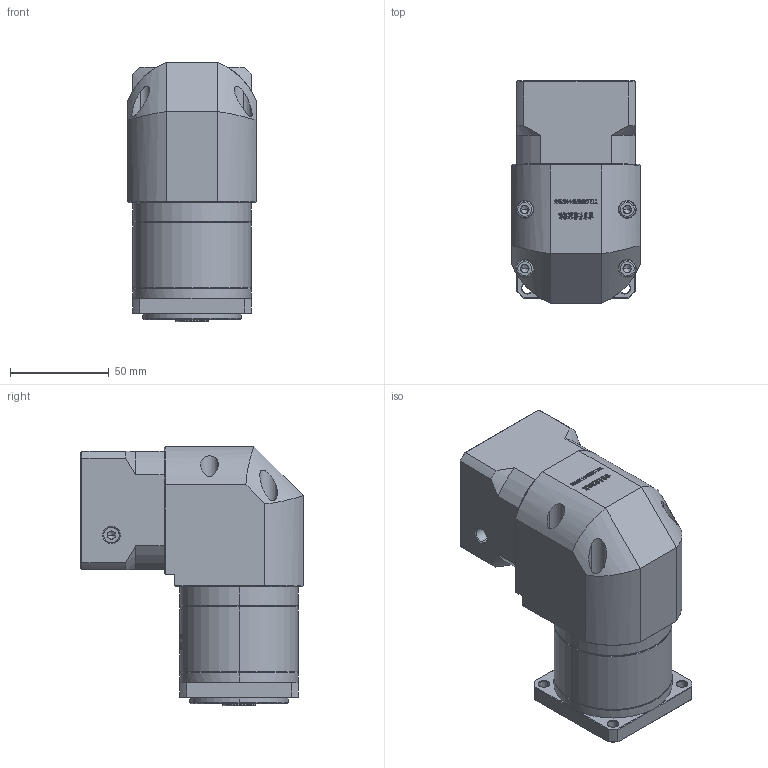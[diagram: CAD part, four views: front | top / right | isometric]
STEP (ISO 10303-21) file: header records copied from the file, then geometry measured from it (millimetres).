
FILE_DESCRIPTION (( 'STEP AP214' ), '1' );
FILE_NAME ('ZFR60-K10-L1-6.35-38.1-47.14x47.14-M4.STEP', '2022-04-20T08:06:11', ( '' ), ( 'Microsoft' ), 'SwSTEP 2.0', 'SolidWorks 2016', '' );
FILE_SCHEMA (( 'AUTOMOTIVE_DESIGN' ));
Length unit declared in the file: millimetre
Products named in the file (1): ZFR60-K10-L1-6.35-38.1-47.14x47.14-M4
Bounding box: 65 x 112.7 x 131.5 mm (x, y, z)
Volume: 535235.9 mm3; surface area: 79013.8 mm2
Topology: 5 solids, 6 shells, 2623 faces, 7130 edges, 4644 vertices
Faces by surface type: plane 1391, bspline 584, cylinder 353, cone 283, torus 12
Entity records: 140753 total; most frequent: CARTESIAN_POINT 51095, ORIENTED_EDGE 14220, DIRECTION 10223, EDGE_CURVE 7110, VERTEX_POINT 4644, VECTOR 4321, LINE 4321, AXIS2_PLACEMENT_3D 2951
